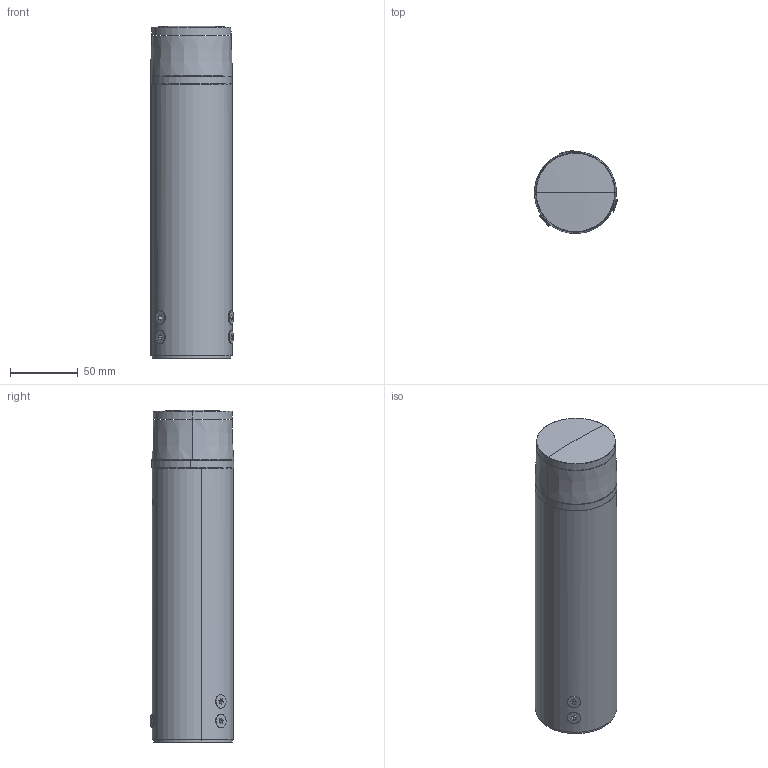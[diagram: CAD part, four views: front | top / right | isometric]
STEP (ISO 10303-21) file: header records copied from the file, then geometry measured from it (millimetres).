
FILE_DESCRIPTION((''),'2;1');
FILE_NAME('STIK-FLAT-H200_SW0001','2025-05-26T16:11:47',('elena.baldelli'),(''),'CREO PARAMETRIC BY PTC INC, 2020354','CREO PARAMETRIC BY PTC INC, 2020354','');
FILE_SCHEMA(('CONFIG_CONTROL_DESIGN'));
Length unit declared in the file: millimetre
Products named in the file (1): STIK-FLAT-H200_SW0001
Bounding box: 61.33 x 61.65 x 245 mm (x, y, z)
Surface area: 101614.3 mm2 (no closed solid volume)
Topology: 0 solids, 27 shells, 103 faces, 375 edges, 296 vertices
Faces by surface type: cylinder 52, plane 26, cone 16, torus 7, sphere 2
Entity records: 4967 total; most frequent: CARTESIAN_POINT 1748, DIRECTION 687, ORIENTED_EDGE 526, EDGE_CURVE 373, VERTEX_POINT 296, AXIS2_PLACEMENT_3D 265, CIRCLE 162, VECTOR 157
